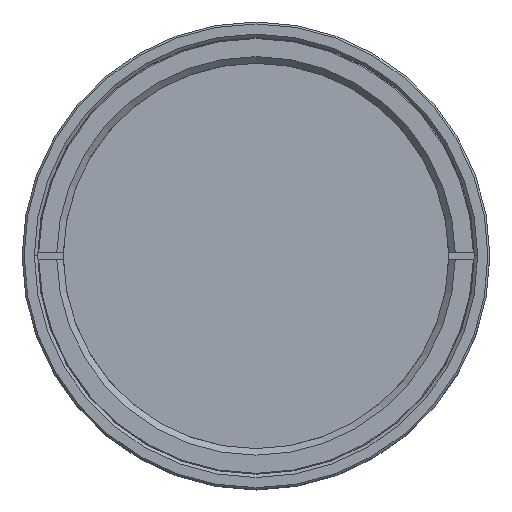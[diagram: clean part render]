
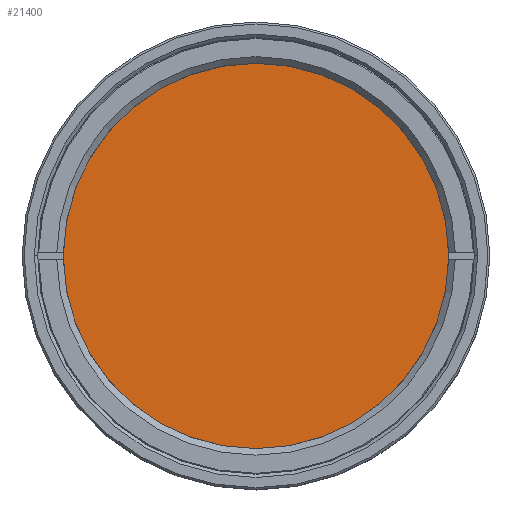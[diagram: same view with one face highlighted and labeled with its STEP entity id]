
A CAD part, top view. The second image highlights one B-rep face of the part: STEP entity #21400.
In plain terms, the highlighted planar face has unit normal (0, 0, 1).
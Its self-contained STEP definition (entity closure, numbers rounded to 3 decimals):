
#479 = VERTEX_POINT ( 'NONE', #20693 ) ;
#1986 = ORIENTED_EDGE ( 'NONE', *, *, #11248, .T. ) ;
#2724 = FACE_OUTER_BOUND ( 'NONE', #5004, .T. ) ;
#3117 = DIRECTION ( 'NONE',  ( 0., 0., 1. ) ) ;
#3353 = CIRCLE ( 'NONE', #4433, 29.286 ) ;
#4433 = AXIS2_PLACEMENT_3D ( 'NONE', #14736, #4436, #16454 ) ;
#4436 = DIRECTION ( 'NONE',  ( 0., 0., 1. ) ) ;
#4935 = CIRCLE ( 'NONE', #17410, 29.286 ) ;
#5004 = EDGE_LOOP ( 'NONE', ( #21490, #1986 ) ) ;
#5501 = CARTESIAN_POINT ( 'NONE',  ( 0., 29.286, 82.44 ) ) ;
#7235 = DIRECTION ( 'NONE',  ( -1., 0., 0. ) ) ;
#9342 = VERTEX_POINT ( 'NONE', #17305 ) ;
#9669 = EDGE_CURVE ( 'NONE', #479, #9342, #3353, .T. ) ;
#11248 = EDGE_CURVE ( 'NONE', #9342, #479, #4935, .T. ) ;
#13414 = CARTESIAN_POINT ( 'NONE',  ( 0., 0., 82.44 ) ) ;
#14736 = CARTESIAN_POINT ( 'NONE',  ( 0., 0., 82.44 ) ) ;
#15155 = DIRECTION ( 'NONE',  ( 1., 0., 0. ) ) ;
#16454 = DIRECTION ( 'NONE',  ( 1., 0., 0. ) ) ;
#17305 = CARTESIAN_POINT ( 'NONE',  ( -29.286, 0., 82.44 ) ) ;
#17410 = AXIS2_PLACEMENT_3D ( 'NONE', #13414, #3117, #15155 ) ;
#17516 = DIRECTION ( 'NONE',  ( 0., 0., -1. ) ) ;
#19839 = AXIS2_PLACEMENT_3D ( 'NONE', #5501, #17516, #7235 ) ;
#20693 = CARTESIAN_POINT ( 'NONE',  ( 29.286, 0., 82.44 ) ) ;
#21400 = ADVANCED_FACE ( 'NONE', ( #2724 ), #22133, .F. ) ;
#21490 = ORIENTED_EDGE ( 'NONE', *, *, #9669, .T. ) ;
#22133 = PLANE ( 'NONE',  #19839 ) ;
